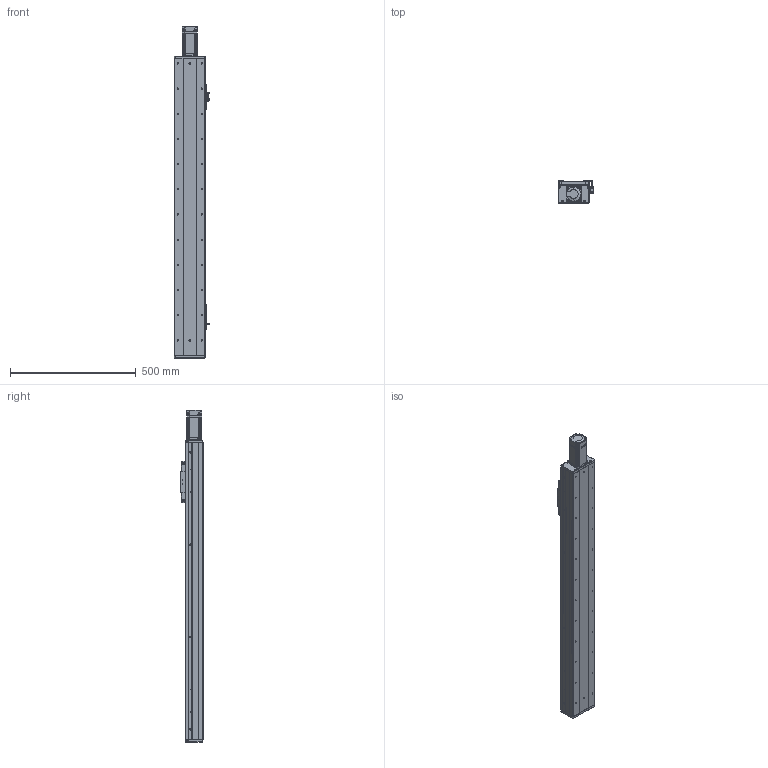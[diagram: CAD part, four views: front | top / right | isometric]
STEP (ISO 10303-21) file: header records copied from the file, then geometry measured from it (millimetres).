
FILE_DESCRIPTION (( 'STEP AP203' ), '1' );
FILE_NAME ('RY120F-L1620-300-MK.SLDASM_900.step', '2021-03-02T06:02:25', ( '盈信电脑' ), ( '东莞市道滘镇水果街19号' ), 'SwSTEP 2.0', 'SolidWorks 2012', '' );
FILE_SCHEMA (( 'CONFIG_CONTROL_DESIGN' ));
Products named in the file (18): RY120F-L1620-300-MK.SLDASM_900; FY120F詩湍揤踡輸; RY80俋离覜茼え; RY120F-臏賑輸 16蹟譫; 滅袉蝶18-28; 672嫖萇羲壽假蚾釱; 覜茼ん672; RY120F祥凄詩滅鳥裔; RY120F綴裔啣(臏璃ㄘ; RY120F-詩湍幗謫粣; 滅袉蝶18-24; 15; RY120F眻蟀ヶ裔啣; 侂狟400W侜督萇儂; RY120F-臏賑輸奻釱; RY120F滅鳥詩湍-300-MK_900; RY120F-300-倰第裔啣_900; RY120F-300-倰第菁釱_900
Assembly tree (23 placements, depth 3):
  RY120F-L1620-300-MK.SLDASM_900
    RY120F-300-倰第菁釱_900
    RY120F-300-倰第裔啣_900  x2
    RY120F滅鳥詩湍-300-MK_900
    RY120F-臏賑輸奻釱
    侂狟400W侜督萇儂
      15
    RY120F眻蟀ヶ裔啣
    RY120F祥凄詩滅鳥裔
    滅袉蝶18-24
    RY120F綴裔啣(臏璃ㄘ
    RY120F-詩湍幗謫粣
    覜茼ん672  x3
    672嫖萇羲壽假蚾釱  x2
    RY80俋离覜茼え
    FY120F詩湍揤踡輸  x2
    RY120F-臏賑輸 16蹟譫
    滅袉蝶18-28  x2
Bounding box: 140.35 x 89 x 1318.5 mm (x, y, z)
Volume: 3936561.8 mm3; surface area: 1408969 mm2
Topology: 22 solids, 22 shells, 2001 faces, 5393 edges, 3445 vertices
Faces by surface type: cylinder 902, plane 858, cone 223, bspline 18
Entity records: 55715 total; most frequent: CARTESIAN_POINT 9989, DIRECTION 9469, ORIENTED_EDGE 8842, EDGE_CURVE 4421, AXIS2_PLACEMENT_3D 3435, VERTEX_POINT 2889, VECTOR 2599, LINE 2599
